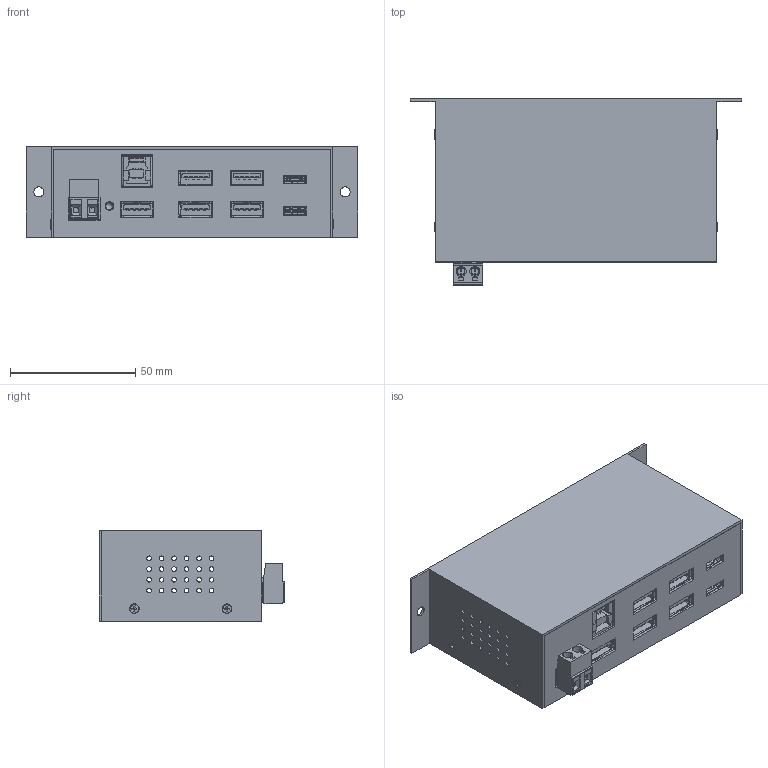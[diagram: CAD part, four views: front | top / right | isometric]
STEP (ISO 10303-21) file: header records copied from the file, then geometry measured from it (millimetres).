
FILE_DESCRIPTION(('FreeCAD Model'),'2;1');
FILE_NAME('Y:/Technische Zeichnungen/EX-1197HMS/EX-1197HMS_3D.step', '2017-10-25T12:17:33',('Author'),(''), 'Open CASCADE STEP processor 6.8','FreeCAD','Unknown');
FILE_SCHEMA(('AUTOMOTIVE_DESIGN_CC2 { 1 2 10303 214 -1 1 5 4 }'));
Products named in the file (1): 1197HMS_3D
Bounding box: 132.5 x 74.3 x 36.3 mm (x, y, z)
Volume: 58019.8 mm3; surface area: 99942.6 mm2
Topology: 2 solids, 2 shells, 4082 faces, 12072 edges, 7986 vertices
Faces by surface type: plane 3133, cylinder 860, cone 68, torus 20, sphere 1
Full cylindrical faces by diameter (mm): 0.55 x4, 1.85 x48, 2.4 x8, 2.8 x8, 3.12 x2, 3.2 x8, 3.4 x5, 4 x4
Entity records: 414095 total; most frequent: CARTESIAN_POINT 155595, DIRECTION 39501, LINE 26291, VECTOR 26291, ORIENTED_EDGE 24140, PCURVE 24140, DEFINITIONAL_REPRESENTATION 24140, EDGE_CURVE 12070
